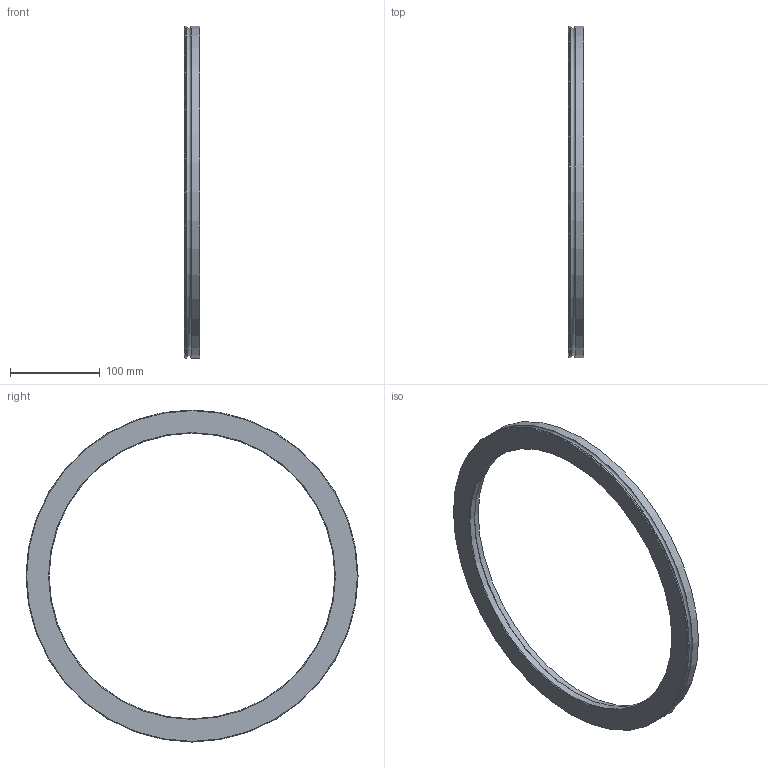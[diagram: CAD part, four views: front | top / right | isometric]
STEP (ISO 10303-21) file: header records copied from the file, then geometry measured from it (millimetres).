
FILE_DESCRIPTION(/* description */ ('Unknown'),/* implementation_level */ '2;1');
FILE_NAME(/* name */ '6516',/* time_stamp */ '2024-04-24T12:52:03+02:00',/* author */ ('Unknown'),/* organization */ ('Unknown'),/* preprocessor_version */ 'ST-DEVELOPER v16.7',/* originating_system */ 'Solid Edge',/* authorisation */ 'Unknown');
FILE_SCHEMA (('AUTOMOTIVE_DESIGN {1 0 10303 214 3 1 1}'));
Length unit declared in the file: millimetre
Products named in the file (1): 6516
Bounding box: 17 x 370.3 x 370.3 mm (x, y, z)
Volume: 400294.6 mm3; surface area: 98771 mm2
Topology: 1 solids, 1 shells, 17 faces, 30 edges, 20 vertices
Faces by surface type: plane 7, cylinder 6, cone 3, torus 1
Full cylindrical faces by diameter (mm): 318.6 x1, 324.8 x1, 330 x1, 365.3 x1, 370.3 x2
Entity records: 378 total; most frequent: DIRECTION 70, CARTESIAN_POINT 52, AXIS2_PLACEMENT_3D 35, ORIENTED_EDGE 34, EDGE_LOOP 34, FACE_BOUND 34, EDGE_CURVE 17, VERTEX_POINT 17
